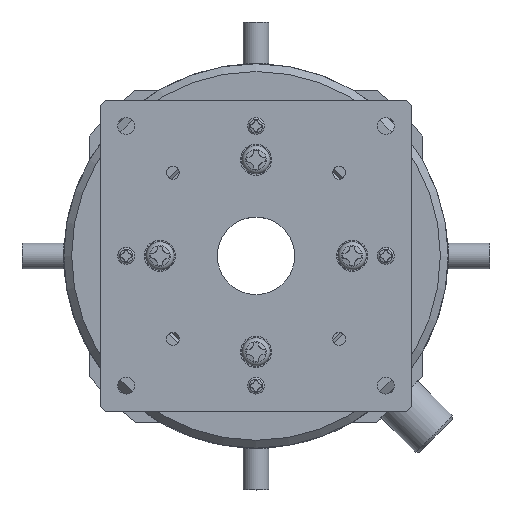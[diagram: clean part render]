
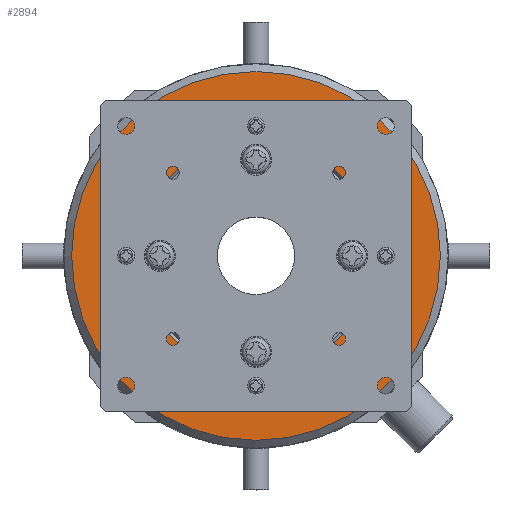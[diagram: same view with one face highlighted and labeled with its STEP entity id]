
A CAD part, top view. The second image highlights one B-rep face of the part: STEP entity #2894.
In plain terms, the highlighted planar face has unit normal (0, 0, 1).
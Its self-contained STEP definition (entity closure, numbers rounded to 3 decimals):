
#2393=CARTESIAN_POINT('',(35.5,0.,42.525));
#2394=VERTEX_POINT('',#2393);
#2395=CARTESIAN_POINT('',(0.0,0.0,42.525));
#2396=DIRECTION('',(0.0,0.0,-1.0));
#2397=DIRECTION('',(-1.0,0.0,0.0));
#2398=AXIS2_PLACEMENT_3D('',#2395,#2396,#2397);
#2399=CIRCLE('',#2398,35.5);
#2400=EDGE_CURVE('',#2394,#2394,#2399,.T.);
#2831=CARTESIAN_POINT('',(0.0,0.0,42.525));
#2832=DIRECTION('',(0.0,0.0,-1.0));
#2833=DIRECTION('',(-1.0,0.0,0.0));
#2834=AXIS2_PLACEMENT_3D('',#2831,#2832,#2833);
#2835=PLANE('',#2834);
#2836=ORIENTED_EDGE('',*,*,#2400,.F.);
#2837=EDGE_LOOP('',(#2836));
#2838=FACE_OUTER_BOUND('',#2837,.T.);
#2839=CARTESIAN_POINT('',(-22.5,0.,42.525));
#2840=VERTEX_POINT('',#2839);
#2841=CARTESIAN_POINT('',(0.0,0.0,42.525));
#2842=DIRECTION('',(0.0,0.0,-1.0));
#2843=DIRECTION('',(1.0,0.0,0.0));
#2844=AXIS2_PLACEMENT_3D('',#2841,#2842,#2843);
#2845=CIRCLE('',#2844,22.5);
#2846=EDGE_CURVE('',#2840,#2840,#2845,.T.);
#2847=ORIENTED_EDGE('',*,*,#2846,.T.);
#2848=EDGE_LOOP('',(#2847));
#2849=FACE_BOUND('',#2848,.T.);
#2850=CARTESIAN_POINT('',(26.75,0.,42.525));
#2851=VERTEX_POINT('',#2850);
#2852=CARTESIAN_POINT('',(25.0,0.,42.525));
#2853=DIRECTION('',(0.0,0.0,-1.0));
#2854=DIRECTION('',(1.0,0.0,0.0));
#2855=AXIS2_PLACEMENT_3D('',#2852,#2853,#2854);
#2856=CIRCLE('',#2855,1.75);
#2857=EDGE_CURVE('',#2851,#2851,#2856,.T.);
#2858=ORIENTED_EDGE('',*,*,#2857,.T.);
#2859=EDGE_LOOP('',(#2858));
#2860=FACE_BOUND('',#2859,.T.);
#2861=CARTESIAN_POINT('',(0.,26.75,42.525));
#2862=VERTEX_POINT('',#2861);
#2863=CARTESIAN_POINT('',(0.,25.0,42.525));
#2864=DIRECTION('',(0.0,0.0,-1.0));
#2865=DIRECTION('',(0.0,1.0,0.0));
#2866=AXIS2_PLACEMENT_3D('',#2863,#2864,#2865);
#2867=CIRCLE('',#2866,1.75);
#2868=EDGE_CURVE('',#2862,#2862,#2867,.T.);
#2869=ORIENTED_EDGE('',*,*,#2868,.T.);
#2870=EDGE_LOOP('',(#2869));
#2871=FACE_BOUND('',#2870,.T.);
#2872=CARTESIAN_POINT('',(-26.75,0.,42.525));
#2873=VERTEX_POINT('',#2872);
#2874=CARTESIAN_POINT('',(-25.0,0.,42.525));
#2875=DIRECTION('',(0.0,0.0,-1.0));
#2876=DIRECTION('',(-1.0,0.0,0.0));
#2877=AXIS2_PLACEMENT_3D('',#2874,#2875,#2876);
#2878=CIRCLE('',#2877,1.75);
#2879=EDGE_CURVE('',#2873,#2873,#2878,.T.);
#2880=ORIENTED_EDGE('',*,*,#2879,.T.);
#2881=EDGE_LOOP('',(#2880));
#2882=FACE_BOUND('',#2881,.T.);
#2883=CARTESIAN_POINT('',(0.,-26.75,42.525));
#2884=VERTEX_POINT('',#2883);
#2885=CARTESIAN_POINT('',(0.,-25.0,42.525));
#2886=DIRECTION('',(0.0,0.0,-1.0));
#2887=DIRECTION('',(0.0,-1.0,0.0));
#2888=AXIS2_PLACEMENT_3D('',#2885,#2886,#2887);
#2889=CIRCLE('',#2888,1.75);
#2890=EDGE_CURVE('',#2884,#2884,#2889,.T.);
#2891=ORIENTED_EDGE('',*,*,#2890,.T.);
#2892=EDGE_LOOP('',(#2891));
#2893=FACE_BOUND('',#2892,.T.);
#2894=ADVANCED_FACE('',(#2838,#2849,#2860,#2871,#2882,#2893),#2835,.F.);
